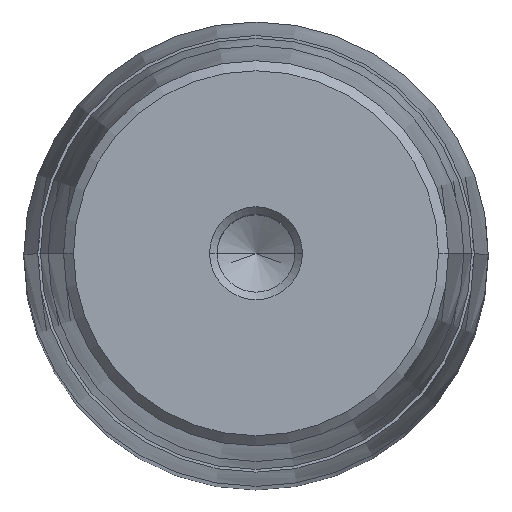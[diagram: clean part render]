
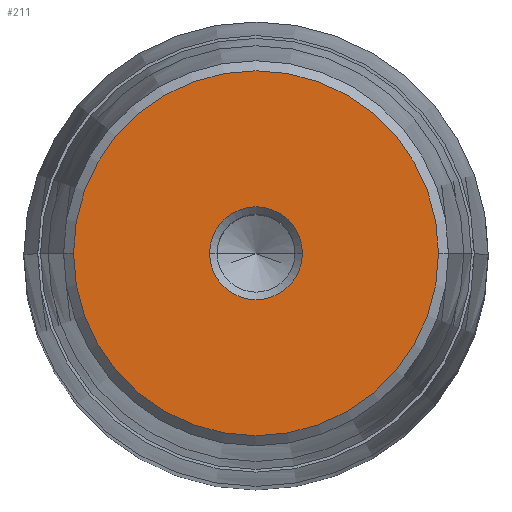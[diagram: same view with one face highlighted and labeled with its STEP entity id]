
A CAD part, top view. The second image highlights one B-rep face of the part: STEP entity #211.
In plain terms, the highlighted planar face has unit normal (0, 0, 1).
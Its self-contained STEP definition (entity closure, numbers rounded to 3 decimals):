
#136=CARTESIAN_POINT('Axis2P3D Location',(0.,0.,58.)) ;
#140=CARTESIAN_POINT('Vertex',(-5.,0.,58.)) ;
#142=CARTESIAN_POINT('Vertex',(5.,0.,58.)) ;
#179=CARTESIAN_POINT('Axis2P3D Location',(0.,5.,58.)) ;
#184=CARTESIAN_POINT('Axis2P3D Location',(0.,0.,58.)) ;
#188=CARTESIAN_POINT('Vertex',(-19.65,0.,58.)) ;
#190=CARTESIAN_POINT('Vertex',(19.65,0.,58.)) ;
#193=CARTESIAN_POINT('Axis2P3D Location',(0.,0.,58.)) ;
#202=CARTESIAN_POINT('Axis2P3D Location',(0.,0.,58.)) ;
#137=DIRECTION('Axis2P3D Direction',(0.,-0.,1.)) ;
#180=DIRECTION('Axis2P3D Direction',(0.,0.,-1.)) ;
#181=DIRECTION('Axis2P3D XDirection',(-1.,0.,0.)) ;
#185=DIRECTION('Axis2P3D Direction',(0.,0.,-1.)) ;
#194=DIRECTION('Axis2P3D Direction',(0.,0.,-1.)) ;
#203=DIRECTION('Axis2P3D Direction',(0.,0.,-1.)) ;
#138=AXIS2_PLACEMENT_3D('Circle Axis2P3D',#136,#137,$) ;
#182=AXIS2_PLACEMENT_3D('Plane Axis2P3D',#179,#180,#181) ;
#186=AXIS2_PLACEMENT_3D('Circle Axis2P3D',#184,#185,$) ;
#195=AXIS2_PLACEMENT_3D('Circle Axis2P3D',#193,#194,$) ;
#204=AXIS2_PLACEMENT_3D('Circle Axis2P3D',#202,#203,$) ;
#199=ORIENTED_EDGE('',*,*,#192,.F.) ;
#200=ORIENTED_EDGE('',*,*,#197,.F.) ;
#208=ORIENTED_EDGE('',*,*,#206,.T.) ;
#209=ORIENTED_EDGE('',*,*,#144,.T.) ;
#210=FACE_BOUND('',#207,.T.) ;
#211=ADVANCED_FACE('722-50x250x290',(#201,#210),#183,.F.) ;
#139=CIRCLE('generated circle',#138,5.) ;
#187=CIRCLE('generated circle',#186,19.65) ;
#196=CIRCLE('generated circle',#195,19.65) ;
#205=CIRCLE('generated circle',#204,5.) ;
#144=EDGE_CURVE('',#141,#143,#139,.F.) ;
#192=EDGE_CURVE('',#189,#191,#187,.T.) ;
#197=EDGE_CURVE('',#191,#189,#196,.T.) ;
#206=EDGE_CURVE('',#143,#141,#205,.T.) ;
#198=EDGE_LOOP('',(#199,#200)) ;
#207=EDGE_LOOP('',(#208,#209)) ;
#201=FACE_OUTER_BOUND('',#198,.T.) ;
#183=PLANE('Plane',#182) ;
#141=VERTEX_POINT('',#140) ;
#143=VERTEX_POINT('',#142) ;
#189=VERTEX_POINT('',#188) ;
#191=VERTEX_POINT('',#190) ;
